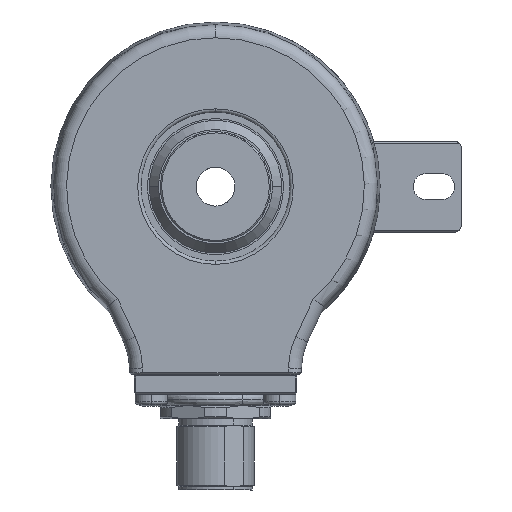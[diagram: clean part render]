
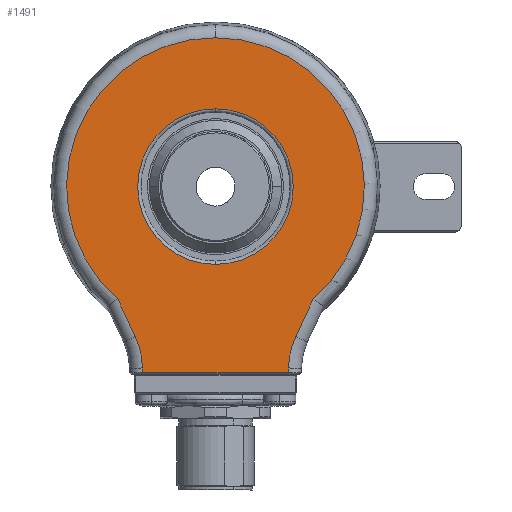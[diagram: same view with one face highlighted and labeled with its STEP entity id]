
A CAD part, left-side view. The second image highlights one B-rep face of the part: STEP entity #1491.
In plain terms, the highlighted planar face has unit normal (-1, 0, 0).
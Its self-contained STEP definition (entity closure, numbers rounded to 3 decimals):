
#109 = CARTESIAN_POINT ( 'NONE',  ( -21., 0., 0. ) ) ;
#779 = EDGE_LOOP ( 'NONE', ( #7499, #18483, #9727, #22269, #12652, #11038, #18464, #22363, #2484 ) ) ;
#1090 = AXIS2_PLACEMENT_3D ( 'NONE', #109, #14134, #2118 ) ;
#1491 = ADVANCED_FACE ( 'NONE', ( #20492, #25199 ), #16615, .F. ) ;
#1659 = AXIS2_PLACEMENT_3D ( 'NONE', #18061, #6077, #20065 ) ;
#1955 = CIRCLE ( 'NONE', #7866, 12. ) ;
#2021 = LINE ( 'NONE', #6886, #17359 ) ;
#2030 = VECTOR ( 'NONE', #24817, 1000. ) ;
#2118 = DIRECTION ( 'NONE',  ( 0., 0., 1. ) ) ;
#2268 = EDGE_CURVE ( 'NONE', #12337, #13861, #12018, .T. ) ;
#2289 = EDGE_LOOP ( 'NONE', ( #14660, #9283 ) ) ;
#2484 = ORIENTED_EDGE ( 'NONE', *, *, #25058, .T. ) ;
#2535 = CARTESIAN_POINT ( 'NONE',  ( -21., 11.268, -27.974 ) ) ;
#2669 = VERTEX_POINT ( 'NONE', #23397 ) ;
#2728 = DIRECTION ( 'NONE',  ( 0., -0.017, 1. ) ) ;
#3214 = CARTESIAN_POINT ( 'NONE',  ( -21., 12.39, -23.112 ) ) ;
#3242 = EDGE_CURVE ( 'NONE', #19739, #3858, #1955, .T. ) ;
#3656 = DIRECTION ( 'NONE',  ( 0., -0.423, -0.906 ) ) ;
#3858 = VERTEX_POINT ( 'NONE', #9109 ) ;
#4562 = AXIS2_PLACEMENT_3D ( 'NONE', #18334, #6354, #20344 ) ;
#5036 = LINE ( 'NONE', #8975, #20386 ) ;
#6077 = DIRECTION ( 'NONE',  ( 1., 0., 0. ) ) ;
#6198 = VERTEX_POINT ( 'NONE', #2535 ) ;
#6354 = DIRECTION ( 'NONE',  ( 1., 0., 0. ) ) ;
#6441 = CARTESIAN_POINT ( 'NONE',  ( -21., 0., 0. ) ) ;
#6619 = DIRECTION ( 'NONE',  ( 0., 0., 1. ) ) ;
#6708 = CARTESIAN_POINT ( 'NONE',  ( -21., 0., 12. ) ) ;
#6797 = CARTESIAN_POINT ( 'NONE',  ( -21., -14.953, -17.615 ) ) ;
#6886 = CARTESIAN_POINT ( 'NONE',  ( -21., -11.25, -28.695 ) ) ;
#7234 = EDGE_CURVE ( 'NONE', #24015, #19250, #13035, .T. ) ;
#7339 = LINE ( 'NONE', #6797, #2030 ) ;
#7429 = EDGE_CURVE ( 'NONE', #2669, #12337, #9900, .T. ) ;
#7499 = ORIENTED_EDGE ( 'NONE', *, *, #18275, .T. ) ;
#7611 = CARTESIAN_POINT ( 'NONE',  ( -21., 11.255, -28.695 ) ) ;
#7866 = AXIS2_PLACEMENT_3D ( 'NONE', #22765, #10825, #24816 ) ;
#8158 = DIRECTION ( 'NONE',  ( 1., 0., 0. ) ) ;
#8467 = DIRECTION ( 'NONE',  ( 0., 0., 1. ) ) ;
#8975 = CARTESIAN_POINT ( 'NONE',  ( -21., 11.752, -0.205 ) ) ;
#9109 = CARTESIAN_POINT ( 'NONE',  ( -21., 0., -12. ) ) ;
#9283 = ORIENTED_EDGE ( 'NONE', *, *, #18095, .T. ) ;
#9727 = ORIENTED_EDGE ( 'NONE', *, *, #7429, .T. ) ;
#9900 = LINE ( 'NONE', #16740, #14631 ) ;
#10256 = CARTESIAN_POINT ( 'NONE',  ( -21., -15.091, -17.32 ) ) ;
#10515 = CIRCLE ( 'NONE', #1659, 12. ) ;
#10575 = CARTESIAN_POINT ( 'NONE',  ( -21., 0., 0. ) ) ;
#10760 = LINE ( 'NONE', #15666, #16102 ) ;
#10825 = DIRECTION ( 'NONE',  ( 1., 0., 0. ) ) ;
#11038 = ORIENTED_EDGE ( 'NONE', *, *, #7234, .T. ) ;
#12018 = CIRCLE ( 'NONE', #19235, 12. ) ;
#12165 = CARTESIAN_POINT ( 'NONE',  ( -21., 15.091, -17.32 ) ) ;
#12337 = VERTEX_POINT ( 'NONE', #19643 ) ;
#12652 = ORIENTED_EDGE ( 'NONE', *, *, #25765, .T. ) ;
#12905 = CIRCLE ( 'NONE', #4562, 12. ) ;
#13035 = CIRCLE ( 'NONE', #1090, 22.972 ) ;
#13375 = CARTESIAN_POINT ( 'NONE',  ( -21., -12.39, -23.112 ) ) ;
#13816 = VERTEX_POINT ( 'NONE', #3214 ) ;
#13861 = VERTEX_POINT ( 'NONE', #13375 ) ;
#14134 = DIRECTION ( 'NONE',  ( -1., 0., 0. ) ) ;
#14631 = VECTOR ( 'NONE', #2728, 1000. ) ;
#14660 = ORIENTED_EDGE ( 'NONE', *, *, #3242, .T. ) ;
#14989 = DIRECTION ( 'NONE',  ( 0., -1., 0. ) ) ;
#15157 = AXIS2_PLACEMENT_3D ( 'NONE', #6441, #20434, #8467 ) ;
#15324 = EDGE_CURVE ( 'NONE', #21979, #2669, #2021, .T. ) ;
#15666 = CARTESIAN_POINT ( 'NONE',  ( -21., 12.39, -23.112 ) ) ;
#16102 = VECTOR ( 'NONE', #3656, 1000. ) ;
#16485 = VERTEX_POINT ( 'NONE', #12165 ) ;
#16615 = PLANE ( 'NONE',  #16785 ) ;
#16740 = CARTESIAN_POINT ( 'NONE',  ( -21., -11.752, -0.205 ) ) ;
#16785 = AXIS2_PLACEMENT_3D ( 'NONE', #10575, #18597, #6619 ) ;
#16842 = EDGE_CURVE ( 'NONE', #16485, #13816, #10760, .T. ) ;
#17045 = EDGE_CURVE ( 'NONE', #19250, #16485, #21666, .T. ) ;
#17359 = VECTOR ( 'NONE', #14989, 1000. ) ;
#18061 = CARTESIAN_POINT ( 'NONE',  ( -21., 23.266, -28.183 ) ) ;
#18095 = EDGE_CURVE ( 'NONE', #3858, #19739, #12905, .T. ) ;
#18275 = EDGE_CURVE ( 'NONE', #6198, #21979, #5036, .T. ) ;
#18334 = CARTESIAN_POINT ( 'NONE',  ( -21., 0., 0. ) ) ;
#18464 = ORIENTED_EDGE ( 'NONE', *, *, #17045, .T. ) ;
#18483 = ORIENTED_EDGE ( 'NONE', *, *, #15324, .T. ) ;
#18597 = DIRECTION ( 'NONE',  ( 1., 0., 0. ) ) ;
#18716 = CARTESIAN_POINT ( 'NONE',  ( -21., 0., 22.972 ) ) ;
#19235 = AXIS2_PLACEMENT_3D ( 'NONE', #20122, #8158, #22109 ) ;
#19250 = VERTEX_POINT ( 'NONE', #18716 ) ;
#19643 = CARTESIAN_POINT ( 'NONE',  ( -21., -11.268, -27.974 ) ) ;
#19739 = VERTEX_POINT ( 'NONE', #6708 ) ;
#20065 = DIRECTION ( 'NONE',  ( 0., 0., 1. ) ) ;
#20122 = CARTESIAN_POINT ( 'NONE',  ( -21., -23.266, -28.183 ) ) ;
#20344 = DIRECTION ( 'NONE',  ( 0., 0., 1. ) ) ;
#20386 = VECTOR ( 'NONE', #20928, 1000. ) ;
#20434 = DIRECTION ( 'NONE',  ( -1., 0., 0. ) ) ;
#20492 = FACE_BOUND ( 'NONE', #2289, .T. ) ;
#20928 = DIRECTION ( 'NONE',  ( 0., -0.017, -1. ) ) ;
#21666 = CIRCLE ( 'NONE', #15157, 22.972 ) ;
#21979 = VERTEX_POINT ( 'NONE', #7611 ) ;
#22109 = DIRECTION ( 'NONE',  ( 0., 0., 1. ) ) ;
#22269 = ORIENTED_EDGE ( 'NONE', *, *, #2268, .T. ) ;
#22363 = ORIENTED_EDGE ( 'NONE', *, *, #16842, .T. ) ;
#22765 = CARTESIAN_POINT ( 'NONE',  ( -21., 0., 0. ) ) ;
#23397 = CARTESIAN_POINT ( 'NONE',  ( -21., -11.255, -28.695 ) ) ;
#24015 = VERTEX_POINT ( 'NONE', #10256 ) ;
#24816 = DIRECTION ( 'NONE',  ( 0., 0., 1. ) ) ;
#24817 = DIRECTION ( 'NONE',  ( 0., -0.423, 0.906 ) ) ;
#25058 = EDGE_CURVE ( 'NONE', #13816, #6198, #10515, .T. ) ;
#25199 = FACE_OUTER_BOUND ( 'NONE', #779, .T. ) ;
#25765 = EDGE_CURVE ( 'NONE', #13861, #24015, #7339, .T. ) ;
